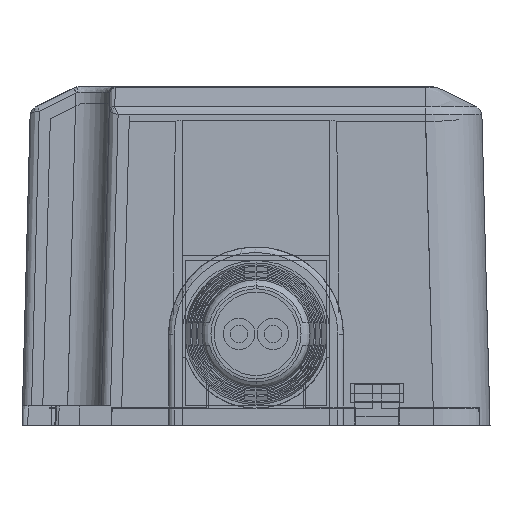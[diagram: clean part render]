
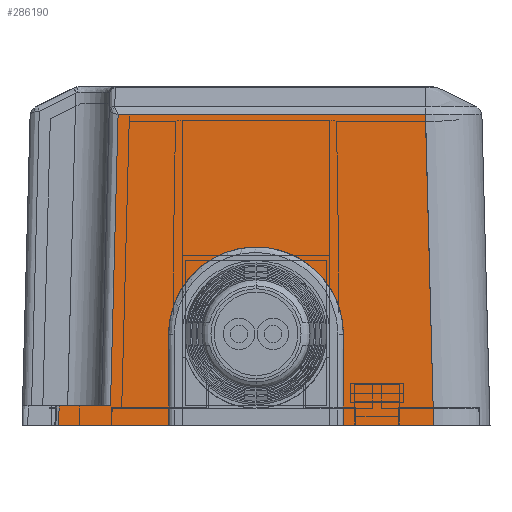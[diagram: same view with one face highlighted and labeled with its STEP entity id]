
A CAD part, left-side view. The second image highlights one B-rep face of the part: STEP entity #286190.
In plain terms, the highlighted planar face has unit normal (-1, 0, 0.026).
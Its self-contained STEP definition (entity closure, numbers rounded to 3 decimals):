
#281250=CARTESIAN_POINT('',(-77.75,-7.75,-0.05));
#281260=VERTEX_POINT('',#281250);
#281290=CARTESIAN_POINT('',(-77.75,-15.752,-0.05
));
#281300=DIRECTION('',(0.,1.,0.));
#281310=VECTOR('',#281300,1.);
#281320=LINE('',#281290,#281310);
#281330=CARTESIAN_POINT('',(-77.75,-15.752,-0.05
));
#281340=VERTEX_POINT('',#281330);
#281350=EDGE_CURVE('',#281340,#281260,#281320,.T.);
#285210=CARTESIAN_POINT('',(-77.75,-15.752,-0.05
));
#285220=DIRECTION('',(0.026,0.026,
0.999));
#285230=VECTOR('',#285220,1.);
#285240=LINE('',#285210,#285230);
#285250=CARTESIAN_POINT('',(-77.029,-15.031,
27.468));
#285260=VERTEX_POINT('',#285250);
#285270=EDGE_CURVE('',#281340,#285260,#285240,.T.);
#285470=CARTESIAN_POINT('',(-77.75,-20.75,-0.05));
#285480=DIRECTION('',(-1.,0.,0.026));
#285490=DIRECTION('',(-0.026,0.,-1.));
#285500=AXIS2_PLACEMENT_3D('',#285470,#285480,#285490);
#285510=PLANE('',#285500);
#285520=CARTESIAN_POINT('',(-77.029,12.23,
27.468));
#285530=DIRECTION('',(-0.026,0.026,
-0.999));
#285540=VECTOR('',#285530,1.);
#285550=LINE('',#285520,#285540);
#285560=CARTESIAN_POINT('',(-77.029,12.23,
27.468));
#285570=VERTEX_POINT('',#285560);
#285580=CARTESIAN_POINT('',(-77.705,12.906,1.65));
#285590=VERTEX_POINT('',#285580);
#285600=EDGE_CURVE('',#285570,#285590,#285550,.T.);
#285610=ORIENTED_EDGE('',*,*,#285600,.T.);
#285620=CARTESIAN_POINT('',(-77.029,12.23,
27.468));
#285630=DIRECTION('',(0.,-1.,0.));
#285640=VECTOR('',#285630,1.);
#285650=LINE('',#285620,#285640);
#285660=EDGE_CURVE('',#285570,#285260,#285650,.T.);
#285670=ORIENTED_EDGE('',*,*,#285660,.F.);
#285680=ORIENTED_EDGE('',*,*,#285270,.T.);
#285690=ORIENTED_EDGE('',*,*,#281350,.F.);
#285700=CARTESIAN_POINT('',(-77.75,-7.75,-0.05));
#285710=DIRECTION('',(0.026,0.,1.));
#285720=VECTOR('',#285710,1.);
#285730=LINE('',#285700,#285720);
#285740=CARTESIAN_POINT('',(-77.539,-7.75,8.));
#285750=VERTEX_POINT('',#285740);
#285760=EDGE_CURVE('',#281260,#285750,#285730,.T.);
#285770=ORIENTED_EDGE('',*,*,#285760,.F.);
#285780=CARTESIAN_POINT('',(-77.539,0.,
8.));
#285790=DIRECTION('',(1.,0.,-0.026));
#285800=DIRECTION('',(-0.026,0.,-1.));
#285810=AXIS2_PLACEMENT_3D('',#285780,#285790,#285800);
#285820=ELLIPSE('',#285810,7.753,7.75);
#285830=CARTESIAN_POINT('',(-77.539,7.75,8.));
#285840=VERTEX_POINT('',#285830);
#285850=EDGE_CURVE('',#285840,#285750,#285820,.T.);
#285860=ORIENTED_EDGE('',*,*,#285850,.T.);
#285870=CARTESIAN_POINT('',(-77.539,7.75,8.));
#285880=DIRECTION('',(-0.026,0.,
-1.));
#285890=VECTOR('',#285880,1.);
#285900=LINE('',#285870,#285890);
#285910=CARTESIAN_POINT('',(-77.75,7.75,-0.05));
#285920=VERTEX_POINT('',#285910);
#285930=EDGE_CURVE('',#285840,#285920,#285900,.T.);
#285940=ORIENTED_EDGE('',*,*,#285930,.F.);
#285950=CARTESIAN_POINT('',(-77.75,7.75,-0.05));
#285960=DIRECTION('',(0.,1.,0.));
#285970=VECTOR('',#285960,1.);
#285980=LINE('',#285950,#285970);
#285990=CARTESIAN_POINT('',(-77.75,17.551,-0.05)
);
#286000=VERTEX_POINT('',#285990);
#286010=EDGE_CURVE('',#285920,#286000,#285980,.T.);
#286020=ORIENTED_EDGE('',*,*,#286010,.F.);
#286030=CARTESIAN_POINT('',(-77.705,17.444,1.65));
#286040=DIRECTION('',(-0.026,0.063,
-0.998));
#286050=VECTOR('',#286040,1.);
#286060=LINE('',#286030,#286050);
#286070=CARTESIAN_POINT('',(-77.705,17.444,1.65));
#286080=VERTEX_POINT('',#286070);
#286090=EDGE_CURVE('',#286080,#286000,#286060,.T.);
#286100=ORIENTED_EDGE('',*,*,#286090,.T.);
#286110=CARTESIAN_POINT('',(-77.705,12.906,1.65));
#286120=DIRECTION('',(0.,1.,0.));
#286130=VECTOR('',#286120,1.);
#286140=LINE('',#286110,#286130);
#286150=EDGE_CURVE('',#285590,#286080,#286140,.T.);
#286160=ORIENTED_EDGE('',*,*,#286150,.T.);
#286170=EDGE_LOOP('',(#286160,#286100,#286020,#285940,#285860,#285770,
#285690,#285680,#285670,#285610));
#286180=FACE_OUTER_BOUND('',#286170,.T.);
#286190=ADVANCED_FACE('',(#286180),#285510,.T.);
